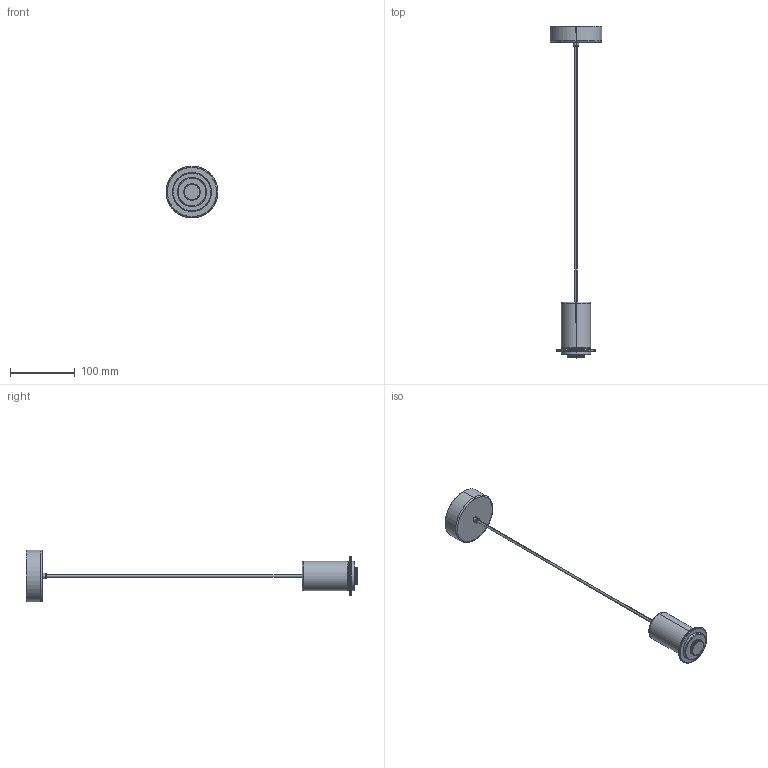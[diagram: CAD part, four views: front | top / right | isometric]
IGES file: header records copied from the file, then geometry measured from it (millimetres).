
Start section: SolidWorks IGES file using analytic representation for surfaces
Global section: file name: C:\Users\danielet\Desktop\ISMAIL\EXCEL\PAMELA-81CON3913-3D\PAMELA-81CON3913-3D.IGS; native system: SolidWorks 2018; preprocessor: SolidWorks 2018; author: danielet; date: 230327.093145; units: millimetre
Bounding box: 80 x 511 x 80 mm (x, y, z)
Surface area: 43130.3 mm2 (no closed solid volume)
Topology: 0 solids, 0 shells, 73 faces, 1524 edges, 1524 vertices
Faces by surface type: revolution 45, bspline 28
